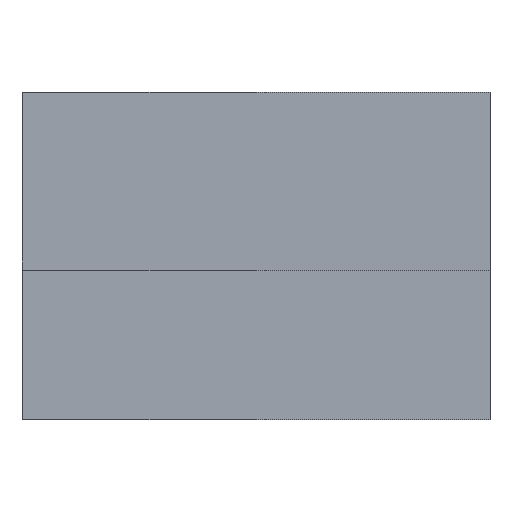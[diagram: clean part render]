
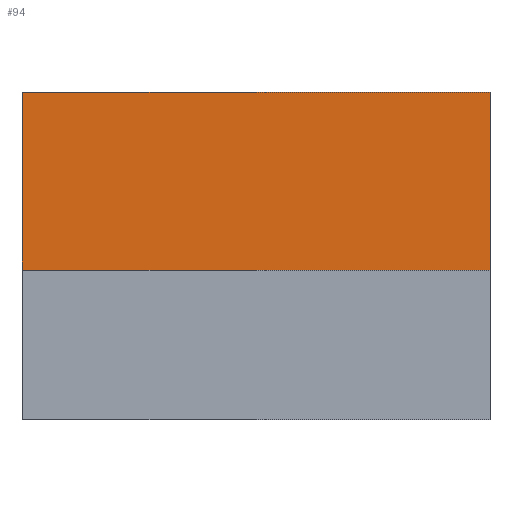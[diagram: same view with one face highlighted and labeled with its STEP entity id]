
A CAD part, front view. The second image highlights one B-rep face of the part: STEP entity #94.
In plain terms, the highlighted planar face has unit normal (0, -1, 0).
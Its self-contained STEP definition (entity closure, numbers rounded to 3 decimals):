
#94=ADVANCED_FACE('',(#214),#216,.T.);
#214=FACE_BOUND('',#215,.T.);
#215=EDGE_LOOP('',(#311,#312,#313,#314));
#216=PLANE('',#217);
#217=AXIS2_PLACEMENT_3D('',#218,#219,#220);
#218=CARTESIAN_POINT('',(-2.5,1.3,2.2));
#219=DIRECTION('',(0.,-1.,0.));
#220=DIRECTION('',(1.,0.,0.));
#311=ORIENTED_EDGE('',*,*,#369,.F.);
#312=ORIENTED_EDGE('',*,*,#359,.F.);
#313=ORIENTED_EDGE('',*,*,#357,.T.);
#314=ORIENTED_EDGE('',*,*,#368,.F.);
#357=EDGE_CURVE('',#386,#391,#393,.T.);
#359=EDGE_CURVE('',#386,#396,#397,.T.);
#368=EDGE_CURVE('',#411,#391,#413,.T.);
#369=EDGE_CURVE('',#396,#411,#414,.T.);
#386=VERTEX_POINT('',#440);
#391=VERTEX_POINT('',#449);
#393=LINE('',#453,#454);
#396=VERTEX_POINT('',#461);
#397=LINE('',#462,#463);
#411=VERTEX_POINT('',#492);
#413=LINE('',#496,#497);
#414=LINE('',#499,#500);
#440=CARTESIAN_POINT('',(-2.5,1.3,1.6));
#449=CARTESIAN_POINT('',(2.5,1.3,1.6));
#453=CARTESIAN_POINT('',(-2.5,1.3,1.6));
#454=VECTOR('',#455,1.);
#455=DIRECTION('',(1.,0.,0.));
#461=CARTESIAN_POINT('',(-2.5,1.3,3.5));
#462=CARTESIAN_POINT('',(-2.5,1.3,1.6));
#463=VECTOR('',#464,1.);
#464=DIRECTION('',(0.,0.,1.));
#492=CARTESIAN_POINT('',(2.5,1.3,3.5));
#496=CARTESIAN_POINT('',(2.5,1.3,3.5));
#497=VECTOR('',#498,1.);
#498=DIRECTION('',(0.,0.,-1.));
#499=CARTESIAN_POINT('',(-2.5,1.3,3.5));
#500=VECTOR('',#501,1.);
#501=DIRECTION('',(1.,0.,0.));
